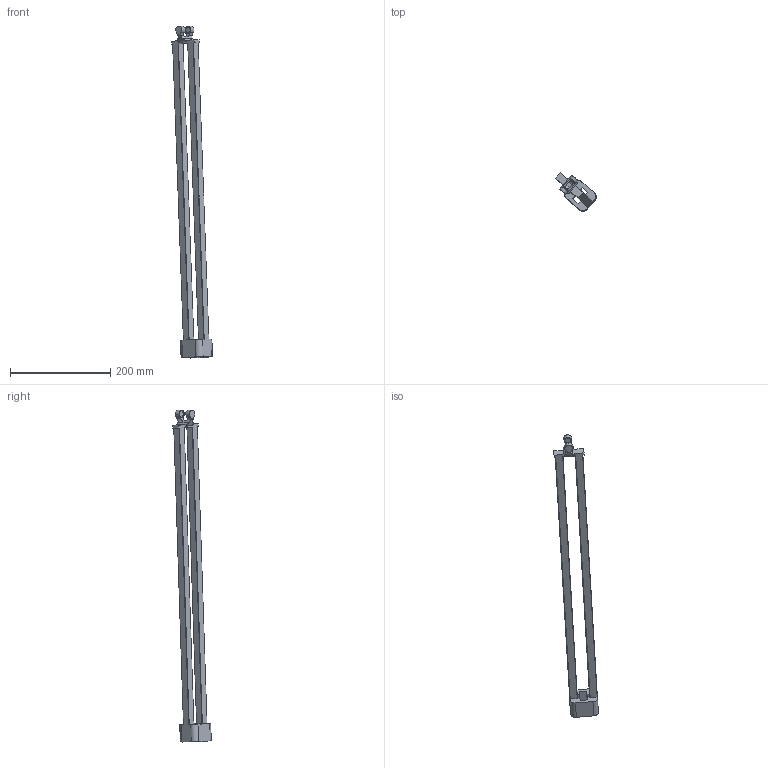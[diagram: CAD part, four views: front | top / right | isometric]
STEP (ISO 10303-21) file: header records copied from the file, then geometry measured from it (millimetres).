
FILE_DESCRIPTION (( 'STEP AP214' ), '1' );
FILE_NAME ('IRB365_1.5-1300_OmniCore_rev00_TELESCOPIC_UNIT_1_1_CAD.step', '2025-09-09T11:52:32', ( '' ), ( '' ), 'SwSTEP 2.0', 'SolidWorks 2024', '' );
FILE_SCHEMA (( 'AUTOMOTIVE_DESIGN' ));
Length unit declared in the file: millimetre
Products named in the file (1): IRB365_1.5-1300_OmniCore_rev00_TELESCOPIC_UNIT_1_1_CAD
Bounding box: 81.91 x 76.9 x 663.57 mm (x, y, z)
Volume: 343816.4 mm3; surface area: 88907.6 mm2
Topology: 1 solids, 1 shells, 77 faces, 228 edges, 152 vertices
Faces by surface type: plane 43, cylinder 34
Entity records: 3598 total; most frequent: CARTESIAN_POINT 646, ORIENTED_EDGE 456, DIRECTION 424, EDGE_CURVE 228, VERTEX_POINT 152, LINE 148, VECTOR 148, AXIS2_PLACEMENT_3D 138
